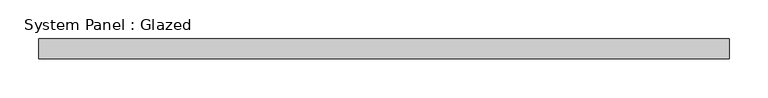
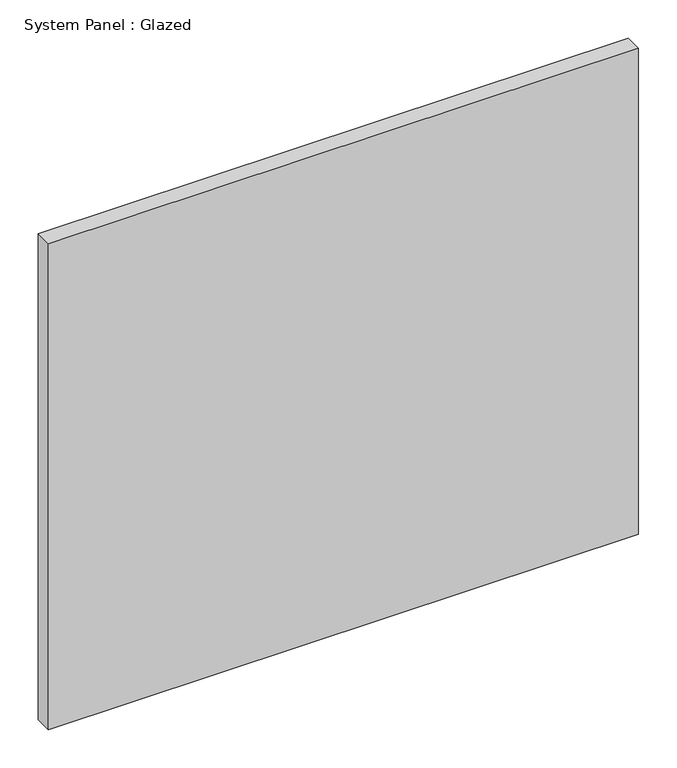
"""IFC4 building model written with IfcOpenShell, lengths in millimetres: plate geometry, System Panel : Glazed."""

from ifc_helpers import new_model, si_unit, origin, origin_with_axes, place, context, project, spatial, polyline, outline, extrude, source, transform, mapped, element, save


def system_panel_glazed_c0ef9efc(model_context):
    return source(origin(), model_context, "Body", "SweptSolid", [
        extrude(outline(polyline([(442.3919032, 19.05), (-442.3919032, 19.05), (-442.3919032, 44.45), (442.3919032, 44.45), (442.3919032, 19.05)])), origin_with_axes(), (0.0, 0.0, 1.0), 770.6690025),
    ])


if __name__ == "__main__":
    model = new_model("IFC4")
    model_context = context("Model", 3, world=origin())
    ifc_project = project(units=[si_unit("LENGTHUNIT", "METRE", prefix="MILLI")], contexts=[model_context])
    site = spatial("IfcSite", under=ifc_project)
    building = spatial("IfcBuilding", under=site)
    placement = place(None, origin())
    system_panel_glazed_shape = system_panel_glazed_c0ef9efc(model_context)
    element("IfcPlate", 1, ObjectType="System Panel : Glazed", at=placement, inside=building, context=model_context, shape_type="MappedRepresentation", body=[
        mapped(system_panel_glazed_shape, transform((0.0, 0.0, 0.0), x_axis=(1.0, 0.0, 0.0), y_axis=(0.0, 1.0, 0.0), z_axis=(0.0, 0.0, 1.0))),
    ])
    save(model, "model.ifc")
